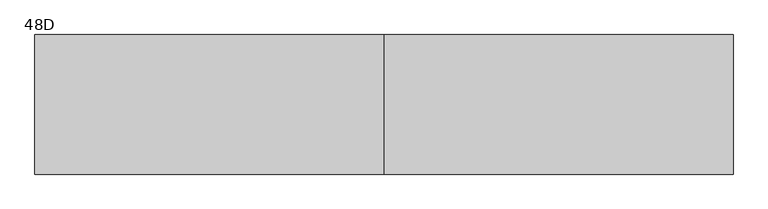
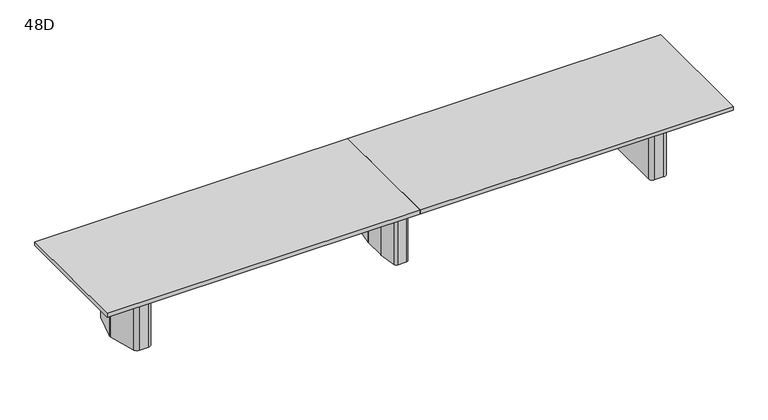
"""IFC4 building model written with IfcOpenShell, lengths in millimetres: furniture geometry, Coalesse_AM_Table_Conference_ETable2_Rectangular_20ft_ThreeBase : 48D."""

from ifc_helpers import new_model, si_unit, frame, origin, place, context, project, spatial, polyline, circle_curve, outline, extrude, source, transform, mapped, element, save
from ifc_brep_helpers import plane_surface, cylinder_surface, revolved_surface, advanced_brep


def furniture_48d_d0c0373c(model_context):
    return source(origin(), model_context, "Body", "SolidModel", [
        advanced_brep(
        [(35.71875, 206.375, 3.175), (10.31875, 231.775, 3.175), (-10.31875, 231.775, 3.175), (-35.71875, 206.375, 3.175), (-35.71875, -206.375, 3.175), (-10.31875, -231.775, 3.175), (10.31875, -231.775, 3.175), (35.71875, -206.375, 3.175), (-61.11875, 206.375, 0.0), (-10.31875, 257.175, 0.0), (10.31875, 257.175, 0.0), (61.11875, 206.375, 0.0), (61.11875, -206.375, 0.0), (10.31875, -257.175, 0.0), (-10.31875, -257.175, 0.0), (-61.11875, -206.375, 0.0), (-61.11875, -206.375, 3.175), (-61.11875, 206.375, 3.175), (-10.31875, -257.175, 3.175), (10.31875, -257.175, 3.175), (61.11875, -206.375, 3.175), (61.11875, 206.375, 3.175), (10.31875, 257.175, 3.175), (-10.31875, 257.175, 3.175), (-92.6215974, 106.2976848, 698.5), (-92.86875, 102.7629613, 698.5), (-92.86875, -102.7629613, 698.5), (-92.6215974, -106.2976848, 698.5), (-67.7988375, -282.9347235, 698.5), (-42.6459902, -304.8, 698.5), (42.6459902, -304.8, 698.5), (67.7988375, -282.9347235, 698.5), (92.6215974, -106.2976848, 698.5), (92.86875, -102.7629613, 698.5), (92.86875, 102.7629613, 698.5), (92.6215974, 106.2976848, 698.5), (67.7988375, 282.9347235, 698.5), (42.6459902, 304.8, 698.5), (-42.6459902, 304.8, 698.5), (-67.7988375, 282.9347235, 698.5), (10.31875, 231.775, 698.5), (35.71875, 206.375, 698.5), (35.71875, -206.375, 698.5), (10.31875, -231.775, 698.5), (-10.31875, -231.775, 698.5), (-35.71875, -206.375, 698.5), (-35.71875, 206.375, 698.5), (-10.31875, 231.775, 698.5), (-92.6215974, 106.2976848, 3.175), (-67.7988375, 282.9347235, 3.175), (-42.6459902, 304.8, 3.175), (42.6459902, 304.8, 3.175), (67.7988375, 282.9347235, 3.175), (92.6215974, 106.2976848, 3.175), (92.86875, 102.7629613, 3.175), (92.86875, -102.7629613, 3.175), (92.6215974, -106.2976848, 3.175), (67.7988375, -282.9347235, 3.175), (42.6459902, -304.8, 3.175), (-42.6459902, -304.8, 3.175), (-67.7988375, -282.9347235, 3.175), (-92.6215974, -106.2976848, 3.175), (-92.86875, -102.7629613, 3.175), (-92.86875, 102.7629613, 3.175)],
        [
            (0, 1, circle_curve(frame((10.31875, 206.375, 3.175), z_axis=(0.0, 0.0, 1.0), x_axis=(1.0, 0.0, 0.0)), 25.4)),
            (1, 2),
            (2, 3, circle_curve(frame((-10.31875, 206.375, 3.175), z_axis=(0.0, 0.0, 1.0), x_axis=(1.0, 0.0, 0.0)), 25.4)),
            (3, 4),
            (4, 5, circle_curve(frame((-10.31875, -206.375, 3.175), z_axis=(0.0, 0.0, 1.0), x_axis=(1.0, 0.0, 0.0)), 25.4)),
            (5, 6),
            (6, 7, circle_curve(frame((10.31875, -206.375, 3.175), z_axis=(0.0, 0.0, 1.0), x_axis=(1.0, 0.0, 0.0)), 25.4)),
            (7, 0),
            (8, 9, circle_curve(frame((-10.31875, 206.375, 0.0), z_axis=(0.0, 0.0, -1.0), x_axis=(1.0, 0.0, 0.0)), 50.8)),
            (9, 10),
            (10, 11, circle_curve(frame((10.31875, 206.375, 0.0), z_axis=(0.0, 0.0, -1.0), x_axis=(1.0, 0.0, 0.0)), 50.8)),
            (11, 12),
            (12, 13, circle_curve(frame((10.31875, -206.375, 0.0), z_axis=(0.0, 0.0, -1.0), x_axis=(1.0, 0.0, 0.0)), 50.8)),
            (13, 14),
            (14, 15, circle_curve(frame((-10.31875, -206.375, 0.0), z_axis=(0.0, 0.0, -1.0), x_axis=(1.0, 0.0, 0.0)), 50.8)),
            (15, 8),
            (15, 16),
            (16, 17),
            (17, 8),
            (14, 18),
            (18, 16, circle_curve(frame((-10.31875, -206.375, 3.175), z_axis=(0.0, 0.0, -1.0), x_axis=(1.0, 0.0, 0.0)), 50.8)),
            (13, 19),
            (19, 18),
            (12, 20),
            (20, 19, circle_curve(frame((10.31875, -206.375, 3.175), z_axis=(0.0, 0.0, -1.0), x_axis=(1.0, 0.0, 0.0)), 50.8)),
            (11, 21),
            (21, 20),
            (10, 22),
            (22, 21, circle_curve(frame((10.31875, 206.375, 3.175), z_axis=(0.0, 0.0, -1.0), x_axis=(1.0, 0.0, 0.0)), 50.8)),
            (9, 23),
            (23, 22),
            (17, 23, circle_curve(frame((-10.31875, 206.375, 3.175), z_axis=(0.0, 0.0, -1.0), x_axis=(1.0, 0.0, 0.0)), 50.8)),
            (24, 25, circle_curve(frame((-67.46875, 102.7629613, 698.5), z_axis=(0.0, 0.0, 1.0), x_axis=(1.0, 0.0, 0.0)), 25.4)),
            (25, 26),
            (26, 27, circle_curve(frame((-67.46875, -102.7629613, 698.5), z_axis=(0.0, 0.0, 1.0), x_axis=(1.0, 0.0, 0.0)), 25.4)),
            (27, 28),
            (28, 29, circle_curve(frame((-42.6459902, -279.4, 698.5), z_axis=(0.0, 0.0, 1.0), x_axis=(1.0, 0.0, 0.0)), 25.4)),
            (29, 30),
            (30, 31, circle_curve(frame((42.6459902, -279.4, 698.5), z_axis=(0.0, 0.0, 1.0), x_axis=(1.0, 0.0, 0.0)), 25.4)),
            (31, 32),
            (32, 33, circle_curve(frame((67.46875, -102.7629613, 698.5), z_axis=(0.0, 0.0, 1.0), x_axis=(1.0, 0.0, 0.0)), 25.4)),
            (33, 34),
            (34, 35, circle_curve(frame((67.46875, 102.7629613, 698.5), z_axis=(0.0, 0.0, 1.0), x_axis=(1.0, 0.0, 0.0)), 25.4)),
            (35, 36),
            (36, 37, circle_curve(frame((42.6459902, 279.4, 698.5), z_axis=(0.0, 0.0, 1.0), x_axis=(1.0, 0.0, 0.0)), 25.4)),
            (37, 38),
            (38, 39, circle_curve(frame((-42.6459902, 279.4, 698.5), z_axis=(0.0, 0.0, 1.0), x_axis=(1.0, 0.0, 0.0)), 25.4)),
            (39, 24),
            (40, 41, circle_curve(frame((10.31875, 206.375, 698.5), z_axis=(0.0, 0.0, -1.0), x_axis=(1.0, 0.0, 0.0)), 25.4)),
            (41, 42),
            (42, 43, circle_curve(frame((10.31875, -206.375, 698.5), z_axis=(0.0, 0.0, -1.0), x_axis=(1.0, 0.0, 0.0)), 25.4)),
            (43, 44),
            (44, 45, circle_curve(frame((-10.31875, -206.375, 698.5), z_axis=(0.0, 0.0, -1.0), x_axis=(1.0, 0.0, 0.0)), 25.4)),
            (45, 46),
            (46, 47, circle_curve(frame((-10.31875, 206.375, 698.5), z_axis=(0.0, 0.0, -1.0), x_axis=(1.0, 0.0, 0.0)), 25.4)),
            (47, 40),
            (48, 49),
            (49, 50, circle_curve(frame((-42.6459902, 279.4, 3.175), z_axis=(0.0, 0.0, -1.0), x_axis=(1.0, 0.0, 0.0)), 25.4)),
            (50, 51),
            (51, 52, circle_curve(frame((42.6459902, 279.4, 3.175), z_axis=(0.0, 0.0, -1.0), x_axis=(1.0, 0.0, 0.0)), 25.4)),
            (52, 53),
            (53, 54, circle_curve(frame((67.46875, 102.7629613, 3.175), z_axis=(0.0, 0.0, -1.0), x_axis=(1.0, 0.0, 0.0)), 25.4)),
            (54, 55),
            (55, 56, circle_curve(frame((67.46875, -102.7629613, 3.175), z_axis=(0.0, 0.0, -1.0), x_axis=(1.0, 0.0, 0.0)), 25.4)),
            (56, 57),
            (57, 58, circle_curve(frame((42.6459902, -279.4, 3.175), z_axis=(0.0, 0.0, -1.0), x_axis=(1.0, 0.0, 0.0)), 25.4)),
            (58, 59),
            (59, 60, circle_curve(frame((-42.6459902, -279.4, 3.175), z_axis=(0.0, 0.0, -1.0), x_axis=(1.0, 0.0, 0.0)), 25.4)),
            (60, 61),
            (61, 62, circle_curve(frame((-67.46875, -102.7629613, 3.175), z_axis=(0.0, 0.0, -1.0), x_axis=(1.0, 0.0, 0.0)), 25.4)),
            (62, 63),
            (63, 48, circle_curve(frame((-67.46875, 102.7629613, 3.175), z_axis=(0.0, 0.0, -1.0), x_axis=(1.0, 0.0, 0.0)), 25.4)),
            (24, 48),
            (63, 25),
            (62, 26),
            (61, 27),
            (60, 28),
            (59, 29),
            (58, 30),
            (57, 31),
            (56, 32),
            (55, 33),
            (54, 34),
            (53, 35),
            (52, 36),
            (51, 37),
            (50, 38),
            (49, 39),
            (40, 1),
            (0, 41),
            (7, 42),
            (6, 43),
            (5, 44),
            (4, 45),
            (3, 46),
            (2, 47),
        ],
        [
            plane_surface(frame((-61.11875, -206.375, 3.175), z_axis=(0.0, 0.0, 1.0), x_axis=(0.0, -1.0, 0.0))),
            plane_surface(frame((-61.11875, -206.375, 0.0), z_axis=(0.0, 0.0, -1.0), x_axis=(0.0, 1.0, 0.0))),
            plane_surface(frame((-61.11875, 206.375, 3.175), z_axis=(-1.0, 0.0, 0.0), x_axis=(0.0, 0.0, -1.0))),
            cylinder_surface(frame((-10.31875, -206.375, 0.0), z_axis=(0.0, 0.0, 1.0), x_axis=(1.0, 0.0, 0.0)), 50.8),
            plane_surface(frame((-10.31875, -257.175, 3.175), z_axis=(0.0, -1.0, 0.0), x_axis=(0.0, 0.0, -1.0))),
            cylinder_surface(frame((10.31875, -206.375, 0.0), z_axis=(0.0, 0.0, 1.0), x_axis=(1.0, 0.0, 0.0)), 50.8),
            plane_surface(frame((61.11875, -206.375, 3.175), z_axis=(1.0, 0.0, 0.0), x_axis=(0.0, 0.0, -1.0))),
            cylinder_surface(frame((10.31875, 206.375, 0.0), z_axis=(0.0, 0.0, 1.0), x_axis=(1.0, 0.0, 0.0)), 50.8),
            plane_surface(frame((10.31875, 257.175, 3.175), z_axis=(0.0, 1.0, 0.0), x_axis=(0.0, 0.0, -1.0))),
            cylinder_surface(frame((-10.31875, 206.375, 0.0), z_axis=(0.0, 0.0, 1.0), x_axis=(1.0, 0.0, 0.0)), 50.8),
            plane_surface(frame((-42.06875, 102.7629613, 698.5), z_axis=(0.0, 0.0, 1.0), x_axis=(0.0, 1.0, 0.0))),
            plane_surface(frame((-42.06875, 102.7629613, 3.175), z_axis=(0.0, 0.0, -1.0), x_axis=(0.0, -1.0, 0.0))),
            cylinder_surface(frame((-67.46875, 102.7629613, 3.175), z_axis=(0.0, 0.0, 1.0), x_axis=(1.0, 0.0, 0.0)), 25.4),
            plane_surface(frame((-92.86875, 102.7629613, 698.5), z_axis=(-1.0, 0.0, 0.0), x_axis=(0.0, 0.0, -1.0))),
            cylinder_surface(frame((-67.46875, -102.7629613, 3.175), z_axis=(0.0, 0.0, 1.0), x_axis=(1.0, 0.0, 0.0)), 25.4),
            plane_surface(frame((-92.6215974, -106.2976848, 698.5), z_axis=(-0.9902695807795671, -0.13916234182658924, 0.0), x_axis=(0.0, 0.0, -1.0))),
            cylinder_surface(frame((-42.6459902, -279.4, 3.175), z_axis=(0.0, 0.0, 1.0), x_axis=(1.0, 0.0, 0.0)), 25.4),
            plane_surface(frame((-42.6459902, -304.8, 698.5), z_axis=(0.0, -1.0, 0.0), x_axis=(0.0, 0.0, -1.0))),
            cylinder_surface(frame((42.6459902, -279.4, 3.175), z_axis=(0.0, 0.0, 1.0), x_axis=(1.0, 0.0, 0.0)), 25.4),
            plane_surface(frame((67.7988375, -282.9347235, 698.5), z_axis=(0.9902695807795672, -0.13916234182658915, 0.0), x_axis=(0.0, 0.0, -1.0))),
            cylinder_surface(frame((67.46875, -102.7629613, 3.175), z_axis=(0.0, 0.0, 1.0), x_axis=(1.0, 0.0, 0.0)), 25.4),
            plane_surface(frame((92.86875, -102.7629613, 698.5), z_axis=(1.0, 0.0, 0.0), x_axis=(0.0, 0.0, -1.0))),
            cylinder_surface(frame((67.46875, 102.7629613, 3.175), z_axis=(0.0, 0.0, 1.0), x_axis=(1.0, 0.0, 0.0)), 25.4),
            plane_surface(frame((92.6215974, 106.2976848, 698.5), z_axis=(0.9902695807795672, 0.1391623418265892, 0.0), x_axis=(0.0, 0.0, -1.0))),
            cylinder_surface(frame((42.6459902, 279.4, 3.175), z_axis=(0.0, 0.0, 1.0), x_axis=(1.0, 0.0, 0.0)), 25.4),
            plane_surface(frame((42.6459902, 304.8, 698.5), z_axis=(0.0, 1.0, 0.0), x_axis=(0.0, 0.0, -1.0))),
            cylinder_surface(frame((-42.6459902, 279.4, 3.175), z_axis=(0.0, 0.0, 1.0), x_axis=(1.0, 0.0, 0.0)), 25.4),
            plane_surface(frame((-67.7988375, 282.9347235, 698.5), z_axis=(-0.9902695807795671, 0.13916234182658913, 0.0), x_axis=(0.0, 0.0, -1.0))),
            revolved_surface(polyline([(35.71875, 206.375, 3.175), (35.71875, 206.375, 698.5)]), (10.31875, 206.375, 0.0), (0.0, 0.0, -1.0)),
            plane_surface(frame((35.71875, 206.375, 698.5), z_axis=(-1.0, 0.0, 0.0), x_axis=(0.0, 0.0, -1.0))),
            revolved_surface(polyline([(35.71875, -206.375, 3.175), (35.71875, -206.375, 698.5)]), (10.31875, -206.375, 0.0), (0.0, 0.0, -1.0)),
            plane_surface(frame((10.31875, -231.775, 698.5), z_axis=(0.0, 1.0, 0.0), x_axis=(0.0, 0.0, -1.0))),
            revolved_surface(polyline([(15.081249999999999, -206.375, 3.175), (15.081249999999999, -206.375, 698.5)]), (-10.31875, -206.375, 0.0), (0.0, 0.0, -1.0)),
            plane_surface(frame((-35.71875, -206.375, 698.5), z_axis=(1.0, 0.0, 0.0), x_axis=(0.0, 0.0, -1.0))),
            revolved_surface(polyline([(15.081249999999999, 206.375, 3.175), (15.081249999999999, 206.375, 698.5)]), (-10.31875, 206.375, 0.0), (0.0, 0.0, -1.0)),
            plane_surface(frame((-10.31875, 231.775, 698.5), z_axis=(0.0, -1.0, 0.0), x_axis=(0.0, 0.0, -1.0))),
        ],
        [
            (0, [[1, 2, 3, 4, 5, 6, 7, 8]]),
            (1, [[9, 10, 11, 12, 13, 14, 15, 16]]),
            (2, [[-16, 17, 18, 19]]),
            (3, [[-15, 20, 21, -17]]),
            (4, [[-14, 22, 23, -20]]),
            (5, [[-13, 24, 25, -22]]),
            (6, [[-12, 26, 27, -24]]),
            (7, [[-11, 28, 29, -26]]),
            (8, [[-10, 30, 31, -28]]),
            (9, [[-9, -19, 32, -30]]),
            (10, [[33, 34, 35, 36, 37, 38, 39, 40, 41, 42, 43, 44, 45, 46, 47, 48], [49, 50, 51, 52, 53, 54, 55, 56]]),
            (11, [[57, 58, 59, 60, 61, 62, 63, 64, 65, 66, 67, 68, 69, 70, 71, 72], [-18, -21, -23, -25, -27, -29, -31, -32]]),
            (12, [[-33, 73, -72, 74]]),
            (13, [[-34, -74, -71, 75]]),
            (14, [[-35, -75, -70, 76]]),
            (15, [[-36, -76, -69, 77]]),
            (16, [[-37, -77, -68, 78]]),
            (17, [[-38, -78, -67, 79]]),
            (18, [[-39, -79, -66, 80]]),
            (19, [[-40, -80, -65, 81]]),
            (20, [[-41, -81, -64, 82]]),
            (21, [[-42, -82, -63, 83]]),
            (22, [[-43, -83, -62, 84]]),
            (23, [[-44, -84, -61, 85]]),
            (24, [[-45, -85, -60, 86]]),
            (25, [[-46, -86, -59, 87]]),
            (26, [[-47, -87, -58, 88]]),
            (27, [[-48, -88, -57, -73]]),
            (28, [[-49, 89, -1, 90]]),
            (29, [[-50, -90, -8, 91]]),
            (30, [[-51, -91, -7, 92]]),
            (31, [[-52, -92, -6, 93]]),
            (32, [[-53, -93, -5, 94]]),
            (33, [[-54, -94, -4, 95]]),
            (34, [[-55, -95, -3, 96]]),
            (35, [[-56, -96, -2, -89]]),
        ],
    ),
        advanced_brep(
        [(2589.424548, 274.2093613, 698.5), (2549.5579246, 304.8, 698.5), (2460.625, 304.8, 698.5), (2419.35, 263.525, 698.5), (2419.35, -263.525, 698.5), (2460.625, -304.8, 698.5), (2549.5579246, -304.8, 698.5), (2589.424548, -274.2093613, 698.5), (2660.0503901, -10.6333708, 698.5), (2660.0503901, 10.6333708, 698.5), (2457.45, -206.375, 698.5), (2457.45, 206.375, 698.5), (2482.85, 231.775, 698.5), (2541.8608422, 231.775, 698.5), (2566.395338, 212.9490792, 698.5), (2605.0875, 68.54974, 698.5), (2605.0875, -68.54974, 698.5), (2566.395338, -212.9490792, 698.5), (2541.8608422, -231.775, 698.5), (2482.85, -231.775, 698.5), (2589.424548, 274.2093613, 3.175), (2660.0503901, 10.6333708, 3.175), (2660.0503901, -10.6333708, 3.175), (2589.424548, -274.2093613, 3.175), (2549.5579246, -304.8, 3.175), (2460.625, -304.8, 3.175), (2419.35, -263.525, 3.175), (2419.35, 263.525, 3.175), (2460.625, 304.8, 3.175), (2549.5579246, 304.8, 3.175), (2578.6625859, 216.2361187, 3.175), (2541.8608422, 244.475, 3.175), (2482.85, 244.475, 3.175), (2444.75, 206.375, 3.175), (2444.75, -206.375, 3.175), (2482.85, -244.475, 3.175), (2541.8608422, -244.475, 3.175), (2578.6625859, -216.2361187, 3.175), (2617.7875, -70.2217466, 3.175), (2617.7875, 70.2217466, 3.175), (2482.85, -231.775, 3.175), (2457.45, -206.375, 3.175), (2541.8608422, -231.775, 3.175), (2566.395338, -212.9490792, 3.175), (2605.0875, -68.54974, 3.175), (2605.0875, 68.54974, 3.175), (2566.395338, 212.9490792, 3.175), (2541.8608422, 231.775, 3.175), (2482.85, 231.775, 3.175), (2457.45, 206.375, 3.175), (2578.6625859, 216.2361187, 0.0), (2617.7875, 70.2217466, 0.0), (2617.7875, -70.2217466, 0.0), (2578.6625859, -216.2361187, 0.0), (2541.8608422, -244.475, 0.0), (2482.85, -244.475, 0.0), (2444.75, -206.375, 0.0), (2444.75, 206.375, 0.0), (2482.85, 244.475, 0.0), (2541.8608422, 244.475, 0.0)],
        [
            (0, 1, circle_curve(frame((2549.5579246, 263.5270004, 698.5), z_axis=(0.0, 0.0, 1.0), x_axis=(-1.0, 0.0, 0.0)), 41.2729996)),
            (1, 2),
            (2, 3, circle_curve(frame((2460.625, 263.525, 698.5), z_axis=(0.0, 0.0, 1.0), x_axis=(-1.0, 0.0, 0.0)), 41.275)),
            (3, 4),
            (4, 5, circle_curve(frame((2460.625, -263.525, 698.5), z_axis=(0.0, 0.0, 1.0), x_axis=(-1.0, 0.0, 0.0)), 41.275)),
            (5, 6),
            (6, 7, circle_curve(frame((2549.5579246, -263.5270004, 698.5), z_axis=(0.0, 0.0, 1.0), x_axis=(-1.0, 0.0, 0.0)), 41.2729996)),
            (7, 8),
            (8, 9, circle_curve(frame((2620.3665979, 0.0, 698.5), z_axis=(0.0, 0.0, 1.0), x_axis=(-1.0, 0.0, 0.0)), 41.0837187)),
            (9, 0),
            (10, 11),
            (11, 12, circle_curve(frame((2482.85, 206.375, 698.5), z_axis=(0.0, 0.0, -1.0), x_axis=(-1.0, 0.0, 0.0)), 25.4)),
            (12, 13),
            (13, 14, circle_curve(frame((2541.8608422, 206.375, 698.5), z_axis=(0.0, 0.0, -1.0), x_axis=(-1.0, 0.0, 0.0)), 25.4)),
            (14, 15),
            (15, 16),
            (16, 17),
            (17, 18, circle_curve(frame((2541.8608422, -206.375, 698.5), z_axis=(0.0, 0.0, -1.0), x_axis=(-1.0, 0.0, 0.0)), 25.4)),
            (18, 19),
            (19, 10, circle_curve(frame((2482.85, -206.375, 698.5), z_axis=(0.0, 0.0, -1.0), x_axis=(-1.0, 0.0, 0.0)), 25.4)),
            (20, 21),
            (21, 22, circle_curve(frame((2620.3665979, 0.0, 3.175), z_axis=(0.0, 0.0, -1.0), x_axis=(-1.0, 0.0, 0.0)), 41.0837187)),
            (22, 23),
            (23, 24, circle_curve(frame((2549.5579246, -263.5270004, 3.175), z_axis=(0.0, 0.0, -1.0), x_axis=(-1.0, 0.0, 0.0)), 41.2729996)),
            (24, 25),
            (25, 26, circle_curve(frame((2460.625, -263.525, 3.175), z_axis=(0.0, 0.0, -1.0), x_axis=(-1.0, 0.0, 0.0)), 41.275)),
            (26, 27),
            (27, 28, circle_curve(frame((2460.625, 263.525, 3.175), z_axis=(0.0, 0.0, -1.0), x_axis=(-1.0, 0.0, 0.0)), 41.275)),
            (28, 29),
            (29, 20, circle_curve(frame((2549.5579246, 263.5270004, 3.175), z_axis=(0.0, 0.0, -1.0), x_axis=(-1.0, 0.0, 0.0)), 41.2729996)),
            (30, 31, circle_curve(frame((2541.8608422, 206.375, 3.175), z_axis=(0.0, 0.0, 1.0), x_axis=(-1.0, 0.0, 0.0)), 38.1)),
            (31, 32),
            (32, 33, circle_curve(frame((2482.85, 206.375, 3.175), z_axis=(0.0, 0.0, 1.0), x_axis=(-1.0, 0.0, 0.0)), 38.1)),
            (33, 34),
            (34, 35, circle_curve(frame((2482.85, -206.375, 3.175), z_axis=(0.0, 0.0, 1.0), x_axis=(-1.0, 0.0, 0.0)), 38.1)),
            (35, 36),
            (36, 37, circle_curve(frame((2541.8608422, -206.375, 3.175), z_axis=(0.0, 0.0, 1.0), x_axis=(-1.0, 0.0, 0.0)), 38.1)),
            (37, 38),
            (38, 39),
            (39, 30),
            (9, 21),
            (20, 0),
            (8, 22),
            (7, 23),
            (6, 24),
            (5, 25),
            (4, 26),
            (3, 27),
            (2, 28),
            (1, 29),
            (19, 40),
            (40, 41, circle_curve(frame((2482.85, -206.375, 3.175), z_axis=(0.0, 0.0, -1.0), x_axis=(-1.0, 0.0, 0.0)), 25.4)),
            (41, 10),
            (18, 42),
            (42, 40),
            (17, 43),
            (43, 42, circle_curve(frame((2541.8608422, -206.375, 3.175), z_axis=(0.0, 0.0, -1.0), x_axis=(-1.0, 0.0, 0.0)), 25.4)),
            (16, 44),
            (44, 43),
            (15, 45),
            (45, 44),
            (14, 46),
            (46, 45),
            (13, 47),
            (47, 46, circle_curve(frame((2541.8608422, 206.375, 3.175), z_axis=(0.0, 0.0, -1.0), x_axis=(-1.0, 0.0, 0.0)), 25.4)),
            (12, 48),
            (48, 47),
            (11, 49),
            (49, 48, circle_curve(frame((2482.85, 206.375, 3.175), z_axis=(0.0, 0.0, -1.0), x_axis=(-1.0, 0.0, 0.0)), 25.4)),
            (41, 49),
            (50, 51),
            (51, 52),
            (52, 53),
            (53, 54, circle_curve(frame((2541.8608422, -206.375, 0.0), z_axis=(0.0, 0.0, -1.0), x_axis=(-1.0, 0.0, 0.0)), 38.1)),
            (54, 55),
            (55, 56, circle_curve(frame((2482.85, -206.375, 0.0), z_axis=(0.0, 0.0, -1.0), x_axis=(-1.0, 0.0, 0.0)), 38.1)),
            (56, 57),
            (57, 58, circle_curve(frame((2482.85, 206.375, 0.0), z_axis=(0.0, 0.0, -1.0), x_axis=(-1.0, 0.0, 0.0)), 38.1)),
            (58, 59),
            (59, 50, circle_curve(frame((2541.8608422, 206.375, 0.0), z_axis=(0.0, 0.0, -1.0), x_axis=(-1.0, 0.0, 0.0)), 38.1)),
            (50, 30),
            (39, 51),
            (38, 52),
            (37, 53),
            (36, 54),
            (35, 55),
            (34, 56),
            (33, 57),
            (32, 58),
            (31, 59),
        ],
        [
            plane_surface(frame((2660.0374275, 10.6817473, 698.5), z_axis=(0.0, 0.0, 1.0000000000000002), x_axis=(0.25882201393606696, -0.9659250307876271, 0.0))),
            plane_surface(frame((2660.0374275, 10.6817473, 3.175), z_axis=(0.0, 0.0, -1.0000000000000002), x_axis=(-0.25882201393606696, 0.9659250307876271, 0.0))),
            plane_surface(frame((2589.424548, 274.2093613, 698.5), z_axis=(0.9659250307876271, 0.25882201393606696, 0.0), x_axis=(0.0, 0.0, -1.0))),
            cylinder_surface(frame((2620.3665979, 0.0, 3.175), z_axis=(0.0, 0.0, 1.0), x_axis=(-1.0, 0.0, 0.0)), 41.0837187),
            plane_surface(frame((2660.0503901, -10.6333708, 698.5), z_axis=(0.9659250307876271, -0.2588220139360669, 0.0), x_axis=(0.0, 0.0, -1.0))),
            cylinder_surface(frame((2549.5579246, -263.5270004, 3.175), z_axis=(0.0, 0.0, 1.0), x_axis=(-1.0, 0.0, 0.0)), 41.2729996),
            plane_surface(frame((2549.5579246, -304.8, 698.5), z_axis=(0.0, -1.0, 0.0), x_axis=(0.0, 0.0, -1.0))),
            cylinder_surface(frame((2460.625, -263.525, 3.175), z_axis=(0.0, 0.0, 1.0), x_axis=(-1.0, 0.0, 0.0)), 41.275),
            plane_surface(frame((2419.35, -263.525, 698.5), z_axis=(-1.0, 0.0, 0.0), x_axis=(0.0, 0.0, -1.0))),
            cylinder_surface(frame((2460.625, 263.525, 3.175), z_axis=(0.0, 0.0, 1.0), x_axis=(-1.0, 0.0, 0.0)), 41.275),
            plane_surface(frame((2460.625, 304.8, 698.5), z_axis=(0.0, 1.0, 0.0), x_axis=(0.0, 0.0, -1.0))),
            cylinder_surface(frame((2549.5579246, 263.5270004, 3.175), z_axis=(0.0, 0.0, 1.0), x_axis=(-1.0, 0.0, 0.0)), 41.2729996),
            revolved_surface(polyline([(2457.45, -206.375, 3.175), (2457.45, -206.375, 698.5)]), (2482.85, -206.375, 0.0), (0.0, 0.0, -1.0)),
            plane_surface(frame((2482.85, -231.775, 698.5), z_axis=(0.0, 1.0, 0.0), x_axis=(0.0, 0.0, -1.0))),
            revolved_surface(polyline([(2516.4608422, -206.375, 3.175), (2516.4608422, -206.375, 698.5)]), (2541.8608422, -206.375, 0.0), (0.0, 0.0, -1.0)),
            plane_surface(frame((2566.395338, -212.9490792, 698.5), z_axis=(-0.9659250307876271, 0.2588220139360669, 0.0), x_axis=(0.0, 0.0, -1.0))),
            plane_surface(frame((2605.0875, -68.54974, 698.5), z_axis=(-1.0, 0.0, 0.0), x_axis=(0.0, 0.0, -1.0))),
            plane_surface(frame((2605.0875, 68.54974, 698.5), z_axis=(-0.9659250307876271, -0.25882201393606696, 0.0), x_axis=(0.0, 0.0, -1.0))),
            revolved_surface(polyline([(2516.4608422, 206.375, 3.175), (2516.4608422, 206.375, 698.5)]), (2541.8608422, 206.375, 0.0), (0.0, 0.0, -1.0)),
            plane_surface(frame((2541.8608422, 231.775, 698.5), z_axis=(0.0, -1.0, 0.0), x_axis=(0.0, 0.0, -1.0))),
            revolved_surface(polyline([(2457.45, 206.375, 3.175), (2457.45, 206.375, 698.5)]), (2482.85, 206.375, 0.0), (0.0, 0.0, -1.0)),
            plane_surface(frame((2457.45, 206.375, 698.5), z_axis=(1.0, 0.0, 0.0), x_axis=(0.0, 0.0, -1.0))),
            plane_surface(frame((2617.3547479, 71.8367796, 3.175), z_axis=(0.0, 0.0, 1.0), x_axis=(0.25882201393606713, -0.965925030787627, 0.0))),
            plane_surface(frame((2617.3547479, 71.8367796, 0.0), z_axis=(0.0, 0.0, -1.0), x_axis=(-0.25882201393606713, 0.965925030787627, 0.0))),
            plane_surface(frame((2578.6625859, 216.2361187, 3.175), z_axis=(0.965925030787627, 0.25882201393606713, 0.0), x_axis=(0.0, 0.0, -1.0))),
            plane_surface(frame((2617.7875, 70.2217466, 3.175), z_axis=(1.0, 0.0, 0.0), x_axis=(0.0, 0.0, -1.0))),
            plane_surface(frame((2617.7875, -70.2217466, 3.175), z_axis=(0.9659250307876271, -0.2588220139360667, 0.0), x_axis=(0.0, 0.0, -1.0))),
            cylinder_surface(frame((2541.8608422, -206.375, 0.0), z_axis=(0.0, 0.0, 1.0), x_axis=(-1.0, 0.0, 0.0)), 38.1),
            plane_surface(frame((2541.8608422, -244.475, 3.175), z_axis=(0.0, -1.0, 0.0), x_axis=(0.0, 0.0, -1.0))),
            cylinder_surface(frame((2482.85, -206.375, 0.0), z_axis=(0.0, 0.0, 1.0), x_axis=(-1.0, 0.0, 0.0)), 38.1),
            plane_surface(frame((2444.75, -206.375, 3.175), z_axis=(-1.0, 0.0, 0.0), x_axis=(0.0, 0.0, -1.0))),
            cylinder_surface(frame((2482.85, 206.375, 0.0), z_axis=(0.0, 0.0, 1.0), x_axis=(-1.0, 0.0, 0.0)), 38.1),
            plane_surface(frame((2482.85, 244.475, 3.175), z_axis=(0.0, 1.0, 0.0), x_axis=(0.0, 0.0, -1.0))),
            cylinder_surface(frame((2541.8608422, 206.375, 0.0), z_axis=(0.0, 0.0, 1.0), x_axis=(-1.0, 0.0, 0.0)), 38.1),
        ],
        [
            (0, [[1, 2, 3, 4, 5, 6, 7, 8, 9, 10], [11, 12, 13, 14, 15, 16, 17, 18, 19, 20]]),
            (1, [[21, 22, 23, 24, 25, 26, 27, 28, 29, 30], [31, 32, 33, 34, 35, 36, 37, 38, 39, 40]]),
            (2, [[41, -21, 42, -10]]),
            (3, [[43, -22, -41, -9]]),
            (4, [[44, -23, -43, -8]]),
            (5, [[45, -24, -44, -7]]),
            (6, [[46, -25, -45, -6]]),
            (7, [[47, -26, -46, -5]]),
            (8, [[48, -27, -47, -4]]),
            (9, [[49, -28, -48, -3]]),
            (10, [[50, -29, -49, -2]]),
            (11, [[-42, -30, -50, -1]]),
            (12, [[51, 52, 53, -20]]),
            (13, [[54, 55, -51, -19]]),
            (14, [[56, 57, -54, -18]]),
            (15, [[58, 59, -56, -17]]),
            (16, [[60, 61, -58, -16]]),
            (17, [[62, 63, -60, -15]]),
            (18, [[64, 65, -62, -14]]),
            (19, [[66, 67, -64, -13]]),
            (20, [[68, 69, -66, -12]]),
            (21, [[-53, 70, -68, -11]]),
            (22, [[-55, -57, -59, -61, -63, -65, -67, -69, -70, -52]]),
            (23, [[71, 72, 73, 74, 75, 76, 77, 78, 79, 80]]),
            (24, [[81, -40, 82, -71]]),
            (25, [[-82, -39, 83, -72]]),
            (26, [[-83, -38, 84, -73]]),
            (27, [[-84, -37, 85, -74]]),
            (28, [[-85, -36, 86, -75]]),
            (29, [[-86, -35, 87, -76]]),
            (30, [[-87, -34, 88, -77]]),
            (31, [[-88, -33, 89, -78]]),
            (32, [[-89, -32, 90, -79]]),
            (33, [[-90, -31, -81, -80]]),
        ],
    ),
        advanced_brep(
        [(-2600.537048, 274.2093613, 698.5), (-2671.1628901, 10.6333708, 698.5), (-2671.1628901, -10.6333708, 698.5), (-2600.537048, -274.2093613, 698.5), (-2560.6704246, -304.8, 698.5), (-2471.7375, -304.8, 698.5), (-2430.4625, -263.525, 698.5), (-2430.4625, 263.525, 698.5), (-2471.7375, 304.8, 698.5), (-2560.6704246, 304.8, 698.5), (-2468.5625, -206.375, 698.5), (-2493.9625, -231.775, 698.5), (-2552.9733422, -231.775, 698.5), (-2577.507838, -212.9490792, 698.5), (-2616.2, -68.54974, 698.5), (-2616.2, 68.54974, 698.5), (-2577.507838, 212.9490792, 698.5), (-2552.9733422, 231.775, 698.5), (-2493.9625, 231.775, 698.5), (-2468.5625, 206.375, 698.5), (-2600.537048, 274.2093613, 3.175), (-2560.6704246, 304.8, 3.175), (-2471.7375, 304.8, 3.175), (-2430.4625, 263.525, 3.175), (-2430.4625, -263.525, 3.175), (-2471.7375, -304.8, 3.175), (-2560.6704246, -304.8, 3.175), (-2600.537048, -274.2093613, 3.175), (-2671.1628901, -10.6333708, 3.175), (-2671.1628901, 10.6333708, 3.175), (-2589.7750859, 216.2361187, 3.175), (-2628.9, 70.2217466, 3.175), (-2628.9, -70.2217466, 3.175), (-2589.7750859, -216.2361187, 3.175), (-2552.9733422, -244.475, 3.175), (-2493.9625, -244.475, 3.175), (-2455.8625, -206.375, 3.175), (-2455.8625, 206.375, 3.175), (-2493.9625, 244.475, 3.175), (-2552.9733422, 244.475, 3.175), (-2468.5625, -206.375, 3.175), (-2493.9625, -231.775, 3.175), (-2552.9733422, -231.775, 3.175), (-2577.507838, -212.9490792, 3.175), (-2616.2, -68.54974, 3.175), (-2616.2, 68.54974, 3.175), (-2577.507838, 212.9490792, 3.175), (-2552.9733422, 231.775, 3.175), (-2493.9625, 231.775, 3.175), (-2468.5625, 206.375, 3.175), (-2589.7750859, 216.2361187, 0.0), (-2552.9733422, 244.475, 0.0), (-2493.9625, 244.475, 0.0), (-2455.8625, 206.375, 0.0), (-2455.8625, -206.375, 0.0), (-2493.9625, -244.475, 0.0), (-2552.9733422, -244.475, 0.0), (-2589.7750859, -216.2361187, 0.0), (-2628.9, -70.2217466, 0.0), (-2628.9, 70.2217466, 0.0)],
        [
            (0, 1),
            (1, 2, circle_curve(frame((-2631.4790979, 0.0, 698.5), z_axis=(0.0, 0.0, 1.0), x_axis=(1.0, 0.0, 0.0)), 41.0837187)),
            (2, 3),
            (3, 4, circle_curve(frame((-2560.6704246, -263.5270004, 698.5), z_axis=(0.0, 0.0, 1.0), x_axis=(1.0, 0.0, 0.0)), 41.2729996)),
            (4, 5),
            (5, 6, circle_curve(frame((-2471.7375, -263.525, 698.5), z_axis=(0.0, 0.0, 1.0), x_axis=(1.0, 0.0, 0.0)), 41.275)),
            (6, 7),
            (7, 8, circle_curve(frame((-2471.7375, 263.525, 698.5), z_axis=(0.0, 0.0, 1.0), x_axis=(1.0, 0.0, 0.0)), 41.275)),
            (8, 9),
            (9, 0, circle_curve(frame((-2560.6704246, 263.5270004, 698.5), z_axis=(0.0, 0.0, 1.0), x_axis=(1.0, 0.0, 0.0)), 41.2729996)),
            (10, 11, circle_curve(frame((-2493.9625, -206.375, 698.5), z_axis=(0.0, 0.0, -1.0), x_axis=(1.0, 0.0, 0.0)), 25.4)),
            (11, 12),
            (12, 13, circle_curve(frame((-2552.9733422, -206.375, 698.5), z_axis=(0.0, 0.0, -1.0), x_axis=(1.0, 0.0, 0.0)), 25.4)),
            (13, 14),
            (14, 15),
            (15, 16),
            (16, 17, circle_curve(frame((-2552.9733422, 206.375, 698.5), z_axis=(0.0, 0.0, -1.0), x_axis=(1.0, 0.0, 0.0)), 25.4)),
            (17, 18),
            (18, 19, circle_curve(frame((-2493.9625, 206.375, 698.5), z_axis=(0.0, 0.0, -1.0), x_axis=(1.0, 0.0, 0.0)), 25.4)),
            (19, 10),
            (20, 21, circle_curve(frame((-2560.6704246, 263.5270004, 3.175), z_axis=(0.0, 0.0, -1.0), x_axis=(1.0, 0.0, 0.0)), 41.2729996)),
            (21, 22),
            (22, 23, circle_curve(frame((-2471.7375, 263.525, 3.175), z_axis=(0.0, 0.0, -1.0), x_axis=(1.0, 0.0, 0.0)), 41.275)),
            (23, 24),
            (24, 25, circle_curve(frame((-2471.7375, -263.525, 3.175), z_axis=(0.0, 0.0, -1.0), x_axis=(1.0, 0.0, 0.0)), 41.275)),
            (25, 26),
            (26, 27, circle_curve(frame((-2560.6704246, -263.5270004, 3.175), z_axis=(0.0, 0.0, -1.0), x_axis=(1.0, 0.0, 0.0)), 41.2729996)),
            (27, 28),
            (28, 29, circle_curve(frame((-2631.4790979, 0.0, 3.175), z_axis=(0.0, 0.0, -1.0), x_axis=(1.0, 0.0, 0.0)), 41.0837187)),
            (29, 20),
            (30, 31),
            (31, 32),
            (32, 33),
            (33, 34, circle_curve(frame((-2552.9733422, -206.375, 3.175), z_axis=(0.0, 0.0, 1.0), x_axis=(1.0, 0.0, 0.0)), 38.1)),
            (34, 35),
            (35, 36, circle_curve(frame((-2493.9625, -206.375, 3.175), z_axis=(0.0, 0.0, 1.0), x_axis=(1.0, 0.0, 0.0)), 38.1)),
            (36, 37),
            (37, 38, circle_curve(frame((-2493.9625, 206.375, 3.175), z_axis=(0.0, 0.0, 1.0), x_axis=(1.0, 0.0, 0.0)), 38.1)),
            (38, 39),
            (39, 30, circle_curve(frame((-2552.9733422, 206.375, 3.175), z_axis=(0.0, 0.0, 1.0), x_axis=(1.0, 0.0, 0.0)), 38.1)),
            (0, 20),
            (29, 1),
            (28, 2),
            (27, 3),
            (26, 4),
            (25, 5),
            (24, 6),
            (23, 7),
            (22, 8),
            (21, 9),
            (10, 40),
            (40, 41, circle_curve(frame((-2493.9625, -206.375, 3.175), z_axis=(0.0, 0.0, -1.0), x_axis=(1.0, 0.0, 0.0)), 25.4)),
            (41, 11),
            (41, 42),
            (42, 12),
            (42, 43, circle_curve(frame((-2552.9733422, -206.375, 3.175), z_axis=(0.0, 0.0, -1.0), x_axis=(1.0, 0.0, 0.0)), 25.4)),
            (43, 13),
            (43, 44),
            (44, 14),
            (44, 45),
            (45, 15),
            (45, 46),
            (46, 16),
            (46, 47, circle_curve(frame((-2552.9733422, 206.375, 3.175), z_axis=(0.0, 0.0, -1.0), x_axis=(1.0, 0.0, 0.0)), 25.4)),
            (47, 17),
            (47, 48),
            (48, 18),
            (48, 49, circle_curve(frame((-2493.9625, 206.375, 3.175), z_axis=(0.0, 0.0, -1.0), x_axis=(1.0, 0.0, 0.0)), 25.4)),
            (49, 19),
            (49, 40),
            (50, 51, circle_curve(frame((-2552.9733422, 206.375, 0.0), z_axis=(0.0, 0.0, -1.0), x_axis=(1.0, 0.0, 0.0)), 38.1)),
            (51, 52),
            (52, 53, circle_curve(frame((-2493.9625, 206.375, 0.0), z_axis=(0.0, 0.0, -1.0), x_axis=(1.0, 0.0, 0.0)), 38.1)),
            (53, 54),
            (54, 55, circle_curve(frame((-2493.9625, -206.375, 0.0), z_axis=(0.0, 0.0, -1.0), x_axis=(1.0, 0.0, 0.0)), 38.1)),
            (55, 56),
            (56, 57, circle_curve(frame((-2552.9733422, -206.375, 0.0), z_axis=(0.0, 0.0, -1.0), x_axis=(1.0, 0.0, 0.0)), 38.1)),
            (57, 58),
            (58, 59),
            (59, 50),
            (59, 31),
            (30, 50),
            (58, 32),
            (57, 33),
            (56, 34),
            (55, 35),
            (54, 36),
            (53, 37),
            (52, 38),
            (51, 39),
        ],
        [
            plane_surface(frame((-2671.1499275, 10.6817473, 698.5), z_axis=(0.0, 0.0, 1.0000000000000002), x_axis=(-0.25882201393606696, -0.9659250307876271, 0.0))),
            plane_surface(frame((-2671.1499275, 10.6817473, 3.175), z_axis=(0.0, 0.0, -1.0000000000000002), x_axis=(0.25882201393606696, 0.9659250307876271, 0.0))),
            plane_surface(frame((-2600.537048, 274.2093613, 698.5), z_axis=(-0.9659250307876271, 0.25882201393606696, 0.0), x_axis=(0.0, 0.0, -1.0))),
            cylinder_surface(frame((-2631.4790979, 0.0, 3.175), z_axis=(0.0, 0.0, 1.0), x_axis=(1.0, 0.0, 0.0)), 41.0837187),
            plane_surface(frame((-2671.1628901, -10.6333708, 698.5), z_axis=(-0.9659250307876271, -0.2588220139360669, 0.0), x_axis=(0.0, 0.0, -1.0))),
            cylinder_surface(frame((-2560.6704246, -263.5270004, 3.175), z_axis=(0.0, 0.0, 1.0), x_axis=(1.0, 0.0, 0.0)), 41.2729996),
            plane_surface(frame((-2560.6704246, -304.8, 698.5), z_axis=(0.0, -1.0, 0.0), x_axis=(0.0, 0.0, -1.0))),
            cylinder_surface(frame((-2471.7375, -263.525, 3.175), z_axis=(0.0, 0.0, 1.0), x_axis=(1.0, 0.0, 0.0)), 41.275),
            plane_surface(frame((-2430.4625, -263.525, 698.5), z_axis=(1.0, 0.0, 0.0), x_axis=(0.0, 0.0, -1.0))),
            cylinder_surface(frame((-2471.7375, 263.525, 3.175), z_axis=(0.0, 0.0, 1.0), x_axis=(1.0, 0.0, 0.0)), 41.275),
            plane_surface(frame((-2471.7375, 304.8, 698.5), z_axis=(0.0, 1.0, 0.0), x_axis=(0.0, 0.0, -1.0))),
            cylinder_surface(frame((-2560.6704246, 263.5270004, 3.175), z_axis=(0.0, 0.0, 1.0), x_axis=(1.0, 0.0, 0.0)), 41.2729996),
            revolved_surface(polyline([(-2468.5625, -206.375, 3.175), (-2468.5625, -206.375, 698.5)]), (-2493.9625, -206.375, 0.0), (0.0, 0.0, -1.0)),
            plane_surface(frame((-2493.9625, -231.775, 698.5), z_axis=(0.0, 1.0, 0.0), x_axis=(0.0, 0.0, -1.0))),
            revolved_surface(polyline([(-2527.5733422, -206.375, 3.175), (-2527.5733422, -206.375, 698.5)]), (-2552.9733422, -206.375, 0.0), (0.0, 0.0, -1.0)),
            plane_surface(frame((-2577.507838, -212.9490792, 698.5), z_axis=(0.9659250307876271, 0.2588220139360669, 0.0), x_axis=(0.0, 0.0, -1.0))),
            plane_surface(frame((-2616.2, -68.54974, 698.5), z_axis=(1.0, 0.0, 0.0), x_axis=(0.0, 0.0, -1.0))),
            plane_surface(frame((-2616.2, 68.54974, 698.5), z_axis=(0.9659250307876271, -0.25882201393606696, 0.0), x_axis=(0.0, 0.0, -1.0))),
            revolved_surface(polyline([(-2527.5733422, 206.375, 3.175), (-2527.5733422, 206.375, 698.5)]), (-2552.9733422, 206.375, 0.0), (0.0, 0.0, -1.0)),
            plane_surface(frame((-2552.9733422, 231.775, 698.5), z_axis=(0.0, -1.0, 0.0), x_axis=(0.0, 0.0, -1.0))),
            revolved_surface(polyline([(-2468.5625, 206.375, 3.175), (-2468.5625, 206.375, 698.5)]), (-2493.9625, 206.375, 0.0), (0.0, 0.0, -1.0)),
            plane_surface(frame((-2468.5625, 206.375, 698.5), z_axis=(-1.0, 0.0, 0.0), x_axis=(0.0, 0.0, -1.0))),
            plane_surface(frame((-2628.4672479, 71.8367796, 3.175), z_axis=(0.0, 0.0, 1.0), x_axis=(-0.25882201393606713, -0.965925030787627, 0.0))),
            plane_surface(frame((-2628.4672479, 71.8367796, 0.0), z_axis=(0.0, 0.0, -1.0), x_axis=(0.25882201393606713, 0.965925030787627, 0.0))),
            plane_surface(frame((-2589.7750859, 216.2361187, 3.175), z_axis=(-0.965925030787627, 0.25882201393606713, 0.0), x_axis=(0.0, 0.0, -1.0))),
            plane_surface(frame((-2628.9, 70.2217466, 3.175), z_axis=(-1.0, 0.0, 0.0), x_axis=(0.0, 0.0, -1.0))),
            plane_surface(frame((-2628.9, -70.2217466, 3.175), z_axis=(-0.9659250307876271, -0.2588220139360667, 0.0), x_axis=(0.0, 0.0, -1.0))),
            cylinder_surface(frame((-2552.9733422, -206.375, 0.0), z_axis=(0.0, 0.0, 1.0), x_axis=(1.0, 0.0, 0.0)), 38.1),
            plane_surface(frame((-2552.9733422, -244.475, 3.175), z_axis=(0.0, -1.0, 0.0), x_axis=(0.0, 0.0, -1.0))),
            cylinder_surface(frame((-2493.9625, -206.375, 0.0), z_axis=(0.0, 0.0, 1.0), x_axis=(1.0, 0.0, 0.0)), 38.1),
            plane_surface(frame((-2455.8625, -206.375, 3.175), z_axis=(1.0, 0.0, 0.0), x_axis=(0.0, 0.0, -1.0))),
            cylinder_surface(frame((-2493.9625, 206.375, 0.0), z_axis=(0.0, 0.0, 1.0), x_axis=(1.0, 0.0, 0.0)), 38.1),
            plane_surface(frame((-2493.9625, 244.475, 3.175), z_axis=(0.0, 1.0, 0.0), x_axis=(0.0, 0.0, -1.0))),
            cylinder_surface(frame((-2552.9733422, 206.375, 0.0), z_axis=(0.0, 0.0, 1.0), x_axis=(1.0, 0.0, 0.0)), 38.1),
        ],
        [
            (0, [[1, 2, 3, 4, 5, 6, 7, 8, 9, 10], [11, 12, 13, 14, 15, 16, 17, 18, 19, 20]]),
            (1, [[21, 22, 23, 24, 25, 26, 27, 28, 29, 30], [31, 32, 33, 34, 35, 36, 37, 38, 39, 40]]),
            (2, [[-1, 41, -30, 42]]),
            (3, [[-2, -42, -29, 43]]),
            (4, [[-3, -43, -28, 44]]),
            (5, [[-4, -44, -27, 45]]),
            (6, [[-5, -45, -26, 46]]),
            (7, [[-6, -46, -25, 47]]),
            (8, [[-7, -47, -24, 48]]),
            (9, [[-8, -48, -23, 49]]),
            (10, [[-9, -49, -22, 50]]),
            (11, [[-10, -50, -21, -41]]),
            (12, [[-11, 51, 52, 53]]),
            (13, [[-12, -53, 54, 55]]),
            (14, [[-13, -55, 56, 57]]),
            (15, [[-14, -57, 58, 59]]),
            (16, [[-15, -59, 60, 61]]),
            (17, [[-16, -61, 62, 63]]),
            (18, [[-17, -63, 64, 65]]),
            (19, [[-18, -65, 66, 67]]),
            (20, [[-19, -67, 68, 69]]),
            (21, [[-20, -69, 70, -51]]),
            (22, [[-52, -70, -68, -66, -64, -62, -60, -58, -56, -54]]),
            (23, [[71, 72, 73, 74, 75, 76, 77, 78, 79, 80]]),
            (24, [[-80, 81, -31, 82]]),
            (25, [[-79, 83, -32, -81]]),
            (26, [[-78, 84, -33, -83]]),
            (27, [[-77, 85, -34, -84]]),
            (28, [[-76, 86, -35, -85]]),
            (29, [[-75, 87, -36, -86]]),
            (30, [[-74, 88, -37, -87]]),
            (31, [[-73, 89, -38, -88]]),
            (32, [[-72, 90, -39, -89]]),
            (33, [[-71, -82, -40, -90]]),
        ],
    ),
        extrude(outline(polyline([(3048.0, 609.6), (3048.0, -609.6), (0.0, -609.6), (0.0, 609.6), (3048.0, 609.6)])), frame((0.0, 0.0, 698.5), z_axis=(0.0, 0.0, 1.0), x_axis=(1.0, 0.0, 0.0)), (0.0, 0.0, 1.0), 38.1),
        extrude(outline(polyline([(0.0, 609.6), (0.0, -609.6), (-3048.0, -609.6), (-3048.0, 609.6), (0.0, 609.6)])), frame((0.0, 0.0, 698.5), z_axis=(0.0, 0.0, 1.0), x_axis=(1.0, 0.0, 0.0)), (0.0, 0.0, 1.0), 38.1),
        extrude(outline(polyline([(96.8375, 698.5), (103.1875, 698.5), (103.1875, 476.25), (-103.1875, 476.25), (-103.1875, 698.5), (-96.8375, 698.5), (-96.8375, 482.6), (96.8375, 482.6), (96.8375, 698.5)])), frame((-2430.4625, 0.0, 0.0), z_axis=(1.0, 0.0, 0.0), x_axis=(0.0, 1.0, 0.0)), (0.0, 0.0, 1.0), 4849.8125),
    ])


if __name__ == "__main__":
    model = new_model("IFC4")
    model_context = context("Model", 3, world=origin())
    ifc_project = project(units=[si_unit("LENGTHUNIT", "METRE", prefix="MILLI")], contexts=[model_context])
    site = spatial("IfcSite", under=ifc_project)
    building = spatial("IfcBuilding", under=site)
    placement = place(None, origin())
    furniture_48d_shape = furniture_48d_d0c0373c(model_context)
    element("IfcFurniture", 1, ObjectType="Coalesse_AM_Table_Conference_ETable2_Rectangular_20ft_ThreeBase : 48D", at=placement, inside=building, context=model_context, shape_type="MappedRepresentation", body=[
        mapped(furniture_48d_shape, transform((0.0, 0.0, 0.0), x_axis=(1.0, 0.0, 0.0), y_axis=(0.0, 1.0, 0.0), z_axis=(0.0, 0.0, 1.0))),
    ])
    save(model, "model.ifc")
